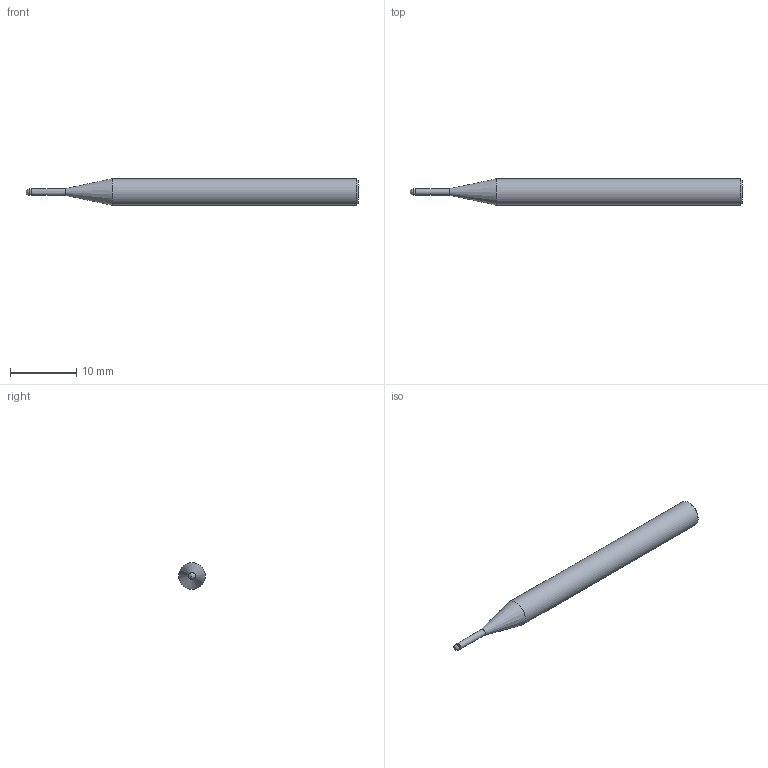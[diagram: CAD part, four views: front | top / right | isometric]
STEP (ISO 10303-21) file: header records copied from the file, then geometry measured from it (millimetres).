
FILE_DESCRIPTION(/* description */ (''),/* implementation_level */ '2;1');
FILE_NAME(/* name */ 'HGXPB2010-6-T0.4 0450.stp',/* time_stamp */ '2026-01-22T09:44:15+08:00',/* author */ (''),/* organization */ (''),/* preprocessor_version */ 'ST-DEVELOPER v16',/* originating_system */ 'SIEMENS PLM Software NX 10.0',/* authorisation */ '');
FILE_SCHEMA (('CONFIG_CONTROL_DESIGN'));
Length unit declared in the file: millimetre
Products named in the file (1): HGXPB2010-6-T0.4 0450_dxf
Bounding box: 50 x 4 x 4 mm (x, y, z)
Volume: 507.9 mm3; surface area: 551.1 mm2
Topology: 1 solids, 1 shells, 9 faces, 16 edges, 9 vertices
Faces by surface type: cylinder 3, cone 3, plane 2, bspline 1
Full cylindrical faces by diameter (mm): 0.95 x1, 1 x1, 4 x1
Entity records: 285 total; most frequent: CARTESIAN_POINT 54, DIRECTION 34, AXIS2_PLACEMENT_3D 17, FACE_BOUND 16, EDGE_LOOP 16, ORIENTED_EDGE 16, ADVANCED_FACE 9, VERTEX_POINT 9
